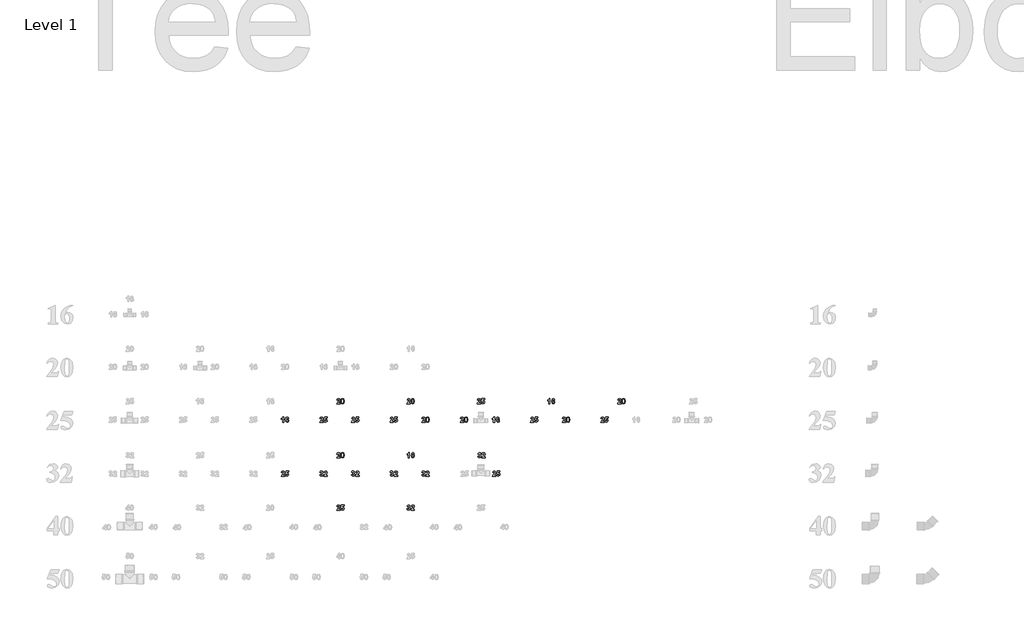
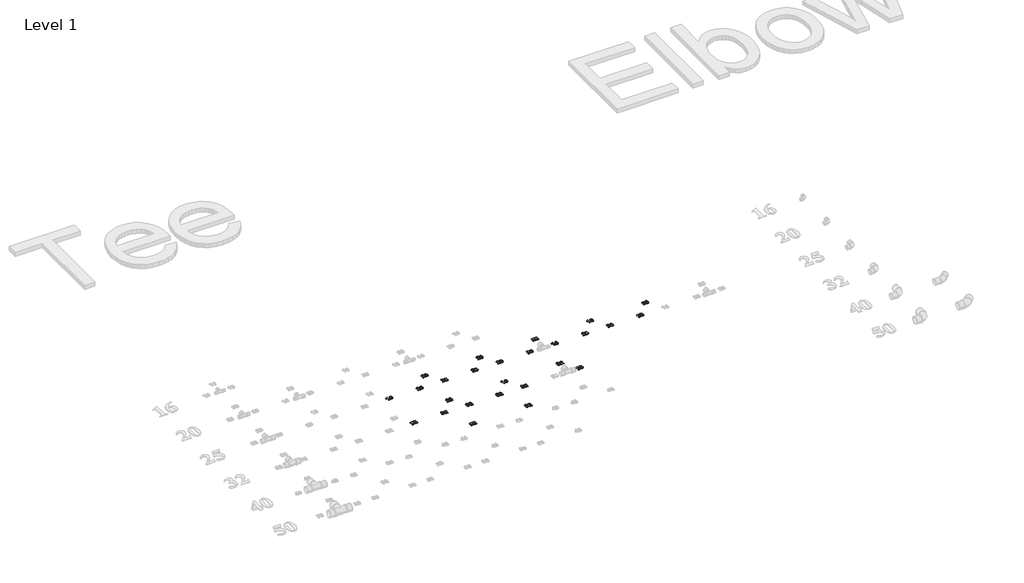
# One storey, part 29 of 57: 26 proxies.
"""IFC4 building model written with IfcOpenShell, lengths in millimetres."""

from ifc_helpers import new_model, si_unit, frame, origin, place, context, project, spatial, polyline, outline, extrude, element, save

model = new_model("IFC4")

# Units and contexts
model_context = context("Model", 3, world=origin())
ifc_project = project(units=[si_unit("LENGTHUNIT", "METRE", prefix="MILLI")], contexts=[model_context])

# Site, building, storey
site = spatial("IfcSite", under=ifc_project)
building = spatial("IfcBuilding", under=site)
storey = spatial("IfcBuildingStorey", under=building, Name="Level 1", Elevation=27.3876384)

# Proxies
placement = place(None, origin())
element("IfcBuildingElementProxy", 1, Name="30mm Arial", ObjectType="30mm Arial", at=placement, inside=storey, context=model_context, shape_type="SweptSolid", body=[
    extrude(outline(polyline([(14046.9128204, 29586.7013539), (14041.0827667, 29586.7013539), (14041.0827667, 29608.5792378), (14033.7951995, 29603.7056773), (14033.7951995, 29609.535731), (14038.6611688, 29612.3938237), (14042.2669963, 29617.3091359), (14046.9128204, 29617.3091359), (14046.9128204, 29586.7013539)])), frame((0.0, 0.0, 27.3876384), z_axis=(0.0, 0.0, 1.0), x_axis=(1.0, 0.0, 0.0)), (0.0, 0.0, 1.0), 2.0),
    extrude(outline(polyline([(14074.6055755, 29609.186535), (14068.7755218, 29608.5640553), (14067.7431165, 29611.1336819), (14065.5720287, 29611.96492), (14062.5810897, 29610.3517867), (14061.0400729, 29603.5766266), (14066.3691064, 29606.1348663), (14072.529378, 29603.4020286), (14075.0914133, 29596.3497892), (14072.4724439, 29588.9901055), (14065.7390355, 29586.2155161), (14058.4970156, 29589.79857), (14055.6579009, 29601.5421808), (14058.6222707, 29613.6122138), (14066.3235591, 29617.3091359), (14071.8271905, 29615.2291428), (14074.6055755, 29609.186535)]), holes=[polyline([(14061.4879547, 29596.4788398), (14062.7480965, 29592.8388519), (14065.6251673, 29591.559732), (14068.221363, 29592.6073198), (14069.2613596, 29596.0461405), (14068.1416553, 29599.6481724), (14065.3442923, 29600.7906504), (14062.607659, 29599.6975153), (14061.4879547, 29596.4788398)])]), frame((0.0, 0.0, 27.3876384), z_axis=(0.0, 0.0, 1.0), x_axis=(1.0, 0.0, 0.0)), (0.0, 0.0, 1.0), 2.0),
])
element("IfcBuildingElementProxy", 2, Name="30mm Arial", ObjectType="30mm Arial", at=placement, inside=storey, context=model_context, shape_type="SweptSolid", body=[
    extrude(outline(polyline([(14366.6163525, 29696.4736422), (14366.6163525, 29690.6435885), (14347.1828401, 29690.6435885), (14349.042688, 29696.3635696), (14355.1536167, 29703.5334729), (14359.6627988, 29708.4222158), (14360.7862988, 29711.9293575), (14359.8411924, 29714.8785448), (14357.2336098, 29715.9071546), (14354.6222316, 29714.8937273), (14353.4987316, 29711.5346143), (14347.6686779, 29712.0659994), (14350.7962588, 29719.1144432), (14357.3626605, 29721.2513705), (14364.1492074, 29718.8563419), (14366.6163525, 29712.9010331), (14365.9407343, 29709.0446955), (14363.8000114, 29705.2111315), (14360.1752059, 29701.3851588), (14356.8464578, 29698.0677975), (14355.7533227, 29696.4736422), (14366.6163525, 29696.4736422)])), frame((0.0, 0.0, 27.3876384), z_axis=(0.0, 0.0, 1.0), x_axis=(1.0, 0.0, 0.0)), (0.0, 0.0, 1.0), 2.0),
    extrude(outline(polyline([(14380.2198112, 29721.2513705), (14387.0139493, 29718.0934247), (14389.9365673, 29705.6969693), (14386.9987668, 29693.2701491), (14380.2198112, 29690.1577507), (14373.1789585, 29693.5737978), (14370.503055, 29705.7576991), (14373.4408555, 29718.138972), (14380.2198112, 29721.2513705)]), holes=[polyline([(14380.2198112, 29715.9071546), (14378.2764599, 29715.2656968), (14376.9555884, 29712.9617628), (14376.3331087, 29705.6969693), (14376.8872674, 29698.6788904), (14378.2878467, 29696.1358331), (14380.2198112, 29695.5019666), (14382.1631624, 29696.1434243), (14383.4840339, 29698.4473583), (14384.1065136, 29705.6969693), (14383.5523549, 29712.7112527), (14382.1517756, 29715.2656968), (14380.2198112, 29715.9071546)])]), frame((0.0, 0.0, 27.3876384), z_axis=(0.0, 0.0, 1.0), x_axis=(1.0, 0.0, 0.0)), (0.0, 0.0, 1.0), 2.0),
])
element("IfcBuildingElementProxy", 3, Name="30mm Arial", ObjectType="30mm Arial", at=placement, inside=storey, context=model_context, shape_type="SweptSolid", body=[
    extrude(outline(polyline([(14450.5211985, 29592.5314076), (14450.5211985, 29586.7013539), (14431.0876861, 29586.7013539), (14432.9475339, 29592.421335), (14439.0584626, 29599.5912383), (14443.5676448, 29604.4799813), (14444.6911448, 29607.9871229), (14443.7460384, 29610.9363103), (14441.1384558, 29611.96492), (14438.5270775, 29610.9514927), (14437.4035776, 29607.5923797), (14431.5735239, 29608.1237648), (14434.7011048, 29615.1722087), (14441.2675064, 29617.3091359), (14448.0540533, 29614.9141073), (14450.5211985, 29608.9587986), (14449.8455803, 29605.102461), (14447.7048574, 29601.268897), (14444.0800519, 29597.4429242), (14440.7513038, 29594.1255629), (14439.6581687, 29592.5314076), (14450.5211985, 29592.5314076)])), frame((0.0, 0.0, 27.3876384), z_axis=(0.0, 0.0, 1.0), x_axis=(1.0, 0.0, 0.0)), (0.0, 0.0, 1.0), 2.0),
    extrude(outline(polyline([(14454.4079009, 29595.3173838), (14459.7521168, 29595.9322723), (14461.2399951, 29592.7363705), (14464.0942923, 29591.559732), (14467.2180776, 29592.808487), (14468.4971974, 29596.5699344), (14467.3091721, 29600.0998498), (14464.2157517, 29601.2764882), (14459.9494885, 29598.8472992), (14454.8937388, 29599.5988295), (14458.2946034, 29616.8232981), (14472.8697377, 29616.8232981), (14472.8697377, 29610.9932444), (14463.0087484, 29610.9932444), (14461.83211, 29605.4288832), (14465.5897618, 29606.6207041), (14471.7841938, 29603.8612972), (14474.3272511, 29596.6989851), (14472.2093019, 29590.1477659), (14464.1853869, 29586.2155161), (14457.5013214, 29588.6826612), (14454.4079009, 29595.3173838)])), frame((0.0, 0.0, 27.3876384), z_axis=(0.0, 0.0, 1.0), x_axis=(1.0, 0.0, 0.0)), (0.0, 0.0, 1.0), 2.0),
])
element("IfcBuildingElementProxy", 4, Name="30mm Arial", ObjectType="30mm Arial", at=placement, inside=storey, context=model_context, shape_type="SweptSolid", body=[
    extrude(outline(polyline([(14270.5211985, 29592.5314076), (14270.5211985, 29586.7013539), (14251.0876861, 29586.7013539), (14252.9475339, 29592.421335), (14259.0584626, 29599.5912383), (14263.5676448, 29604.4799813), (14264.6911448, 29607.9871229), (14263.7460384, 29610.9363103), (14261.1384558, 29611.96492), (14258.5270775, 29610.9514927), (14257.4035776, 29607.5923797), (14251.5735239, 29608.1237648), (14254.7011048, 29615.1722087), (14261.2675064, 29617.3091359), (14268.0540533, 29614.9141073), (14270.5211985, 29608.9587986), (14269.8455803, 29605.102461), (14267.7048574, 29601.268897), (14264.0800519, 29597.4429242), (14260.7513038, 29594.1255629), (14259.6581687, 29592.5314076), (14270.5211985, 29592.5314076)])), frame((0.0, 0.0, 27.3876384), z_axis=(0.0, 0.0, 1.0), x_axis=(1.0, 0.0, 0.0)), (0.0, 0.0, 1.0), 2.0),
    extrude(outline(polyline([(14274.4079009, 29595.3173838), (14279.7521168, 29595.9322723), (14281.2399951, 29592.7363705), (14284.0942923, 29591.559732), (14287.2180776, 29592.808487), (14288.4971974, 29596.5699344), (14287.3091721, 29600.0998498), (14284.2157517, 29601.2764882), (14279.9494885, 29598.8472992), (14274.8937388, 29599.5988295), (14278.2946034, 29616.8232981), (14292.8697377, 29616.8232981), (14292.8697377, 29610.9932444), (14283.0087484, 29610.9932444), (14281.83211, 29605.4288832), (14285.5897618, 29606.6207041), (14291.7841938, 29603.8612972), (14294.3272511, 29596.6989851), (14292.2093019, 29590.1477659), (14284.1853869, 29586.2155161), (14277.5013214, 29588.6826612), (14274.4079009, 29595.3173838)])), frame((0.0, 0.0, 27.3876384), z_axis=(0.0, 0.0, 1.0), x_axis=(1.0, 0.0, 0.0)), (0.0, 0.0, 1.0), 2.0),
])
element("IfcBuildingElementProxy", 5, Name="30mm Arial", ObjectType="30mm Arial", at=placement, inside=storey, context=model_context, shape_type="SweptSolid", body=[
    extrude(outline(polyline([(14765.3663525, 29696.4736422), (14765.3663525, 29690.6435885), (14745.9328401, 29690.6435885), (14747.792688, 29696.3635696), (14753.9036167, 29703.5334729), (14758.4127988, 29708.4222158), (14759.5362988, 29711.9293575), (14758.5911924, 29714.8785448), (14755.9836098, 29715.9071546), (14753.3722316, 29714.8937273), (14752.2487316, 29711.5346143), (14746.4186779, 29712.0659994), (14749.5462588, 29719.1144432), (14756.1126605, 29721.2513705), (14762.8992074, 29718.8563419), (14765.3663525, 29712.9010331), (14764.6907343, 29709.0446955), (14762.5500114, 29705.2111315), (14758.9252059, 29701.3851588), (14755.5964578, 29698.0677975), (14754.5033227, 29696.4736422), (14765.3663525, 29696.4736422)])), frame((0.0, 0.0, 27.3876384), z_axis=(0.0, 0.0, 1.0), x_axis=(1.0, 0.0, 0.0)), (0.0, 0.0, 1.0), 2.0),
    extrude(outline(polyline([(14778.9698112, 29721.2513705), (14785.7639493, 29718.0934247), (14788.6865673, 29705.6969693), (14785.7487668, 29693.2701491), (14778.9698112, 29690.1577507), (14771.9289585, 29693.5737978), (14769.253055, 29705.7576991), (14772.1908555, 29718.138972), (14778.9698112, 29721.2513705)]), holes=[polyline([(14778.9698112, 29715.9071546), (14777.0264599, 29715.2656968), (14775.7055884, 29712.9617628), (14775.0831087, 29705.6969693), (14775.6372674, 29698.6788904), (14777.0378467, 29696.1358331), (14778.9698112, 29695.5019666), (14780.9131624, 29696.1434243), (14782.2340339, 29698.4473583), (14782.8565136, 29705.6969693), (14782.3023549, 29712.7112527), (14780.9017756, 29715.2656968), (14778.9698112, 29715.9071546)])]), frame((0.0, 0.0, 27.3876384), z_axis=(0.0, 0.0, 1.0), x_axis=(1.0, 0.0, 0.0)), (0.0, 0.0, 1.0), 2.0),
])
element("IfcBuildingElementProxy", 6, Name="30mm Arial", ObjectType="30mm Arial", at=placement, inside=storey, context=model_context, shape_type="SweptSolid", body=[
    extrude(outline(polyline([(14849.2711985, 29592.5314076), (14849.2711985, 29586.7013539), (14829.8376861, 29586.7013539), (14831.6975339, 29592.421335), (14837.8084626, 29599.5912383), (14842.3176448, 29604.4799813), (14843.4411448, 29607.9871229), (14842.4960384, 29610.9363103), (14839.8884558, 29611.96492), (14837.2770775, 29610.9514927), (14836.1535776, 29607.5923797), (14830.3235239, 29608.1237648), (14833.4511048, 29615.1722087), (14840.0175064, 29617.3091359), (14846.8040533, 29614.9141073), (14849.2711985, 29608.9587986), (14848.5955803, 29605.102461), (14846.4548574, 29601.268897), (14842.8300519, 29597.4429242), (14839.5013038, 29594.1255629), (14838.4081687, 29592.5314076), (14849.2711985, 29592.5314076)])), frame((0.0, 0.0, 27.3876384), z_axis=(0.0, 0.0, 1.0), x_axis=(1.0, 0.0, 0.0)), (0.0, 0.0, 1.0), 2.0),
    extrude(outline(polyline([(14862.8746571, 29617.3091359), (14869.6687952, 29614.1511902), (14872.5914133, 29601.7547348), (14869.6536128, 29589.3279146), (14862.8746571, 29586.2155161), (14855.8338045, 29589.6315632), (14853.1579009, 29601.8154645), (14856.0957014, 29614.1967375), (14862.8746571, 29617.3091359)]), holes=[polyline([(14862.8746571, 29611.96492), (14860.9313059, 29611.3234623), (14859.6104343, 29609.0195283), (14858.9879547, 29601.7547348), (14859.5421134, 29594.7366558), (14860.9426927, 29592.1935985), (14862.8746571, 29591.559732), (14864.8180084, 29592.2011897), (14866.1388799, 29594.5051237), (14866.7613596, 29601.7547348), (14866.2072009, 29608.7690182), (14864.8066215, 29611.3234623), (14862.8746571, 29611.96492)])]), frame((0.0, 0.0, 27.3876384), z_axis=(0.0, 0.0, 1.0), x_axis=(1.0, 0.0, 0.0)), (0.0, 0.0, 1.0), 2.0),
])
element("IfcBuildingElementProxy", 7, Name="30mm Arial", ObjectType="30mm Arial", at=placement, inside=storey, context=model_context, shape_type="SweptSolid", body=[
    extrude(outline(polyline([(14669.2711985, 29592.5314076), (14669.2711985, 29586.7013539), (14649.8376861, 29586.7013539), (14651.6975339, 29592.421335), (14657.8084626, 29599.5912383), (14662.3176448, 29604.4799813), (14663.4411448, 29607.9871229), (14662.4960384, 29610.9363103), (14659.8884558, 29611.96492), (14657.2770775, 29610.9514927), (14656.1535776, 29607.5923797), (14650.3235239, 29608.1237648), (14653.4511048, 29615.1722087), (14660.0175064, 29617.3091359), (14666.8040533, 29614.9141073), (14669.2711985, 29608.9587986), (14668.5955803, 29605.102461), (14666.4548574, 29601.268897), (14662.8300519, 29597.4429242), (14659.5013038, 29594.1255629), (14658.4081687, 29592.5314076), (14669.2711985, 29592.5314076)])), frame((0.0, 0.0, 27.3876384), z_axis=(0.0, 0.0, 1.0), x_axis=(1.0, 0.0, 0.0)), (0.0, 0.0, 1.0), 2.0),
    extrude(outline(polyline([(14673.1579009, 29595.3173838), (14678.5021168, 29595.9322723), (14679.9899951, 29592.7363705), (14682.8442923, 29591.559732), (14685.9680776, 29592.808487), (14687.2471974, 29596.5699344), (14686.0591721, 29600.0998498), (14682.9657517, 29601.2764882), (14678.6994885, 29598.8472992), (14673.6437388, 29599.5988295), (14677.0446034, 29616.8232981), (14691.6197377, 29616.8232981), (14691.6197377, 29610.9932444), (14681.7587484, 29610.9932444), (14680.58211, 29605.4288832), (14684.3397618, 29606.6207041), (14690.5341938, 29603.8612972), (14693.0772511, 29596.6989851), (14690.9593019, 29590.1477659), (14682.9353869, 29586.2155161), (14676.2513214, 29588.6826612), (14673.1579009, 29595.3173838)])), frame((0.0, 0.0, 27.3876384), z_axis=(0.0, 0.0, 1.0), x_axis=(1.0, 0.0, 0.0)), (0.0, 0.0, 1.0), 2.0),
])
element("IfcBuildingElementProxy", 8, Name="30mm Arial", ObjectType="30mm Arial", at=placement, inside=storey, context=model_context, shape_type="SweptSolid", body=[
    extrude(outline(polyline([(15164.1163525, 29696.4736422), (15164.1163525, 29690.6435885), (15144.6828401, 29690.6435885), (15146.542688, 29696.3635696), (15152.6536167, 29703.5334729), (15157.1627988, 29708.4222158), (15158.2862988, 29711.9293575), (15157.3411924, 29714.8785448), (15154.7336098, 29715.9071546), (15152.1222316, 29714.8937273), (15150.9987316, 29711.5346143), (15145.1686779, 29712.0659994), (15148.2962588, 29719.1144432), (15154.8626605, 29721.2513705), (15161.6492074, 29718.8563419), (15164.1163525, 29712.9010331), (15163.4407343, 29709.0446955), (15161.3000114, 29705.2111315), (15157.6752059, 29701.3851588), (15154.3464578, 29698.0677975), (15153.2533227, 29696.4736422), (15164.1163525, 29696.4736422)])), frame((0.0, 0.0, 27.3876384), z_axis=(0.0, 0.0, 1.0), x_axis=(1.0, 0.0, 0.0)), (0.0, 0.0, 1.0), 2.0),
    extrude(outline(polyline([(15168.003055, 29699.2596184), (15173.3472709, 29699.8745068), (15174.8351492, 29696.678605), (15177.6894463, 29695.5019666), (15180.8132316, 29696.7507216), (15182.0923514, 29700.512169), (15180.9043262, 29704.0420843), (15177.8109057, 29705.2187228), (15173.5446425, 29702.7895337), (15168.4888928, 29703.5410641), (15171.8897574, 29720.7655327), (15186.4648917, 29720.7655327), (15186.4648917, 29714.9354789), (15176.6039024, 29714.9354789), (15175.427264, 29709.3711178), (15179.1849158, 29710.5629387), (15185.3793479, 29707.8035317), (15187.9224052, 29700.6412196), (15185.804456, 29694.0900004), (15177.7805409, 29690.1577507), (15171.0964754, 29692.6248958), (15168.003055, 29699.2596184)])), frame((0.0, 0.0, 27.3876384), z_axis=(0.0, 0.0, 1.0), x_axis=(1.0, 0.0, 0.0)), (0.0, 0.0, 1.0), 2.0),
])
element("IfcBuildingElementProxy", 9, Name="30mm Arial", ObjectType="30mm Arial", at=placement, inside=storey, context=model_context, shape_type="SweptSolid", body=[
    extrude(outline(polyline([(15243.1628204, 29586.7013539), (15237.3327667, 29586.7013539), (15237.3327667, 29608.5792378), (15230.0451995, 29603.7056773), (15230.0451995, 29609.535731), (15234.9111688, 29612.3938237), (15238.5169963, 29617.3091359), (15243.1628204, 29617.3091359), (15243.1628204, 29586.7013539)])), frame((0.0, 0.0, 27.3876384), z_axis=(0.0, 0.0, 1.0), x_axis=(1.0, 0.0, 0.0)), (0.0, 0.0, 1.0), 2.0),
    extrude(outline(polyline([(15270.8555755, 29609.186535), (15265.0255218, 29608.5640553), (15263.9931165, 29611.1336819), (15261.8220287, 29611.96492), (15258.8310897, 29610.3517867), (15257.2900729, 29603.5766266), (15262.6191064, 29606.1348663), (15268.779378, 29603.4020286), (15271.3414133, 29596.3497892), (15268.7224439, 29588.9901055), (15261.9890355, 29586.2155161), (15254.7470156, 29589.79857), (15251.9079009, 29601.5421808), (15254.8722707, 29613.6122138), (15262.5735591, 29617.3091359), (15268.0771905, 29615.2291428), (15270.8555755, 29609.186535)]), holes=[polyline([(15257.7379547, 29596.4788398), (15258.9980965, 29592.8388519), (15261.8751673, 29591.559732), (15264.471363, 29592.6073198), (15265.5113596, 29596.0461405), (15264.3916553, 29599.6481724), (15261.5942923, 29600.7906504), (15258.857659, 29599.6975153), (15257.7379547, 29596.4788398)])]), frame((0.0, 0.0, 27.3876384), z_axis=(0.0, 0.0, 1.0), x_axis=(1.0, 0.0, 0.0)), (0.0, 0.0, 1.0), 2.0),
])
element("IfcBuildingElementProxy", 10, Name="30mm Arial", ObjectType="30mm Arial", at=placement, inside=storey, context=model_context, shape_type="SweptSolid", body=[
    extrude(outline(polyline([(15068.0211985, 29592.5314076), (15068.0211985, 29586.7013539), (15048.5876861, 29586.7013539), (15050.4475339, 29592.421335), (15056.5584626, 29599.5912383), (15061.0676448, 29604.4799813), (15062.1911448, 29607.9871229), (15061.2460384, 29610.9363103), (15058.6384558, 29611.96492), (15056.0270775, 29610.9514927), (15054.9035776, 29607.5923797), (15049.0735239, 29608.1237648), (15052.2011048, 29615.1722087), (15058.7675064, 29617.3091359), (15065.5540533, 29614.9141073), (15068.0211985, 29608.9587986), (15067.3455803, 29605.102461), (15065.2048574, 29601.268897), (15061.5800519, 29597.4429242), (15058.2513038, 29594.1255629), (15057.1581687, 29592.5314076), (15068.0211985, 29592.5314076)])), frame((0.0, 0.0, 27.3876384), z_axis=(0.0, 0.0, 1.0), x_axis=(1.0, 0.0, 0.0)), (0.0, 0.0, 1.0), 2.0),
    extrude(outline(polyline([(15081.6246571, 29617.3091359), (15088.4187952, 29614.1511902), (15091.3414133, 29601.7547348), (15088.4036128, 29589.3279146), (15081.6246571, 29586.2155161), (15074.5838045, 29589.6315632), (15071.9079009, 29601.8154645), (15074.8457014, 29614.1967375), (15081.6246571, 29617.3091359)]), holes=[polyline([(15081.6246571, 29611.96492), (15079.6813059, 29611.3234623), (15078.3604343, 29609.0195283), (15077.7379547, 29601.7547348), (15078.2921134, 29594.7366558), (15079.6926927, 29592.1935985), (15081.6246571, 29591.559732), (15083.5680084, 29592.2011897), (15084.8888799, 29594.5051237), (15085.5113596, 29601.7547348), (15084.9572009, 29608.7690182), (15083.5566215, 29611.3234623), (15081.6246571, 29611.96492)])]), frame((0.0, 0.0, 27.3876384), z_axis=(0.0, 0.0, 1.0), x_axis=(1.0, 0.0, 0.0)), (0.0, 0.0, 1.0), 2.0),
])
element("IfcBuildingElementProxy", 11, Name="30mm Arial", ObjectType="30mm Arial", at=placement, inside=storey, context=model_context, shape_type="SweptSolid", body=[
    extrude(outline(polyline([(15558.0079744, 29690.6435885), (15552.1779207, 29690.6435885), (15552.1779207, 29712.5214723), (15544.8903535, 29707.6479118), (15544.8903535, 29713.4779655), (15549.7563228, 29716.3360583), (15553.3621503, 29721.2513705), (15558.0079744, 29721.2513705), (15558.0079744, 29690.6435885)])), frame((0.0, 0.0, 27.3876384), z_axis=(0.0, 0.0, 1.0), x_axis=(1.0, 0.0, 0.0)), (0.0, 0.0, 1.0), 2.0),
    extrude(outline(polyline([(15585.7007295, 29713.1287696), (15579.8706758, 29712.5062899), (15578.8382705, 29715.0759164), (15576.6671828, 29715.9071546), (15573.6762438, 29714.2940212), (15572.1352269, 29707.5188611), (15577.4642604, 29710.0771008), (15583.624532, 29707.3442632), (15586.1865673, 29700.2920237), (15583.5675979, 29692.93234), (15576.8341895, 29690.1577507), (15569.5921697, 29693.7408045), (15566.753055, 29705.4844153), (15569.7174247, 29717.5544484), (15577.4187131, 29721.2513705), (15582.9223446, 29719.1713773), (15585.7007295, 29713.1287696)]), holes=[polyline([(15572.5831087, 29700.4210744), (15573.8432505, 29696.7810864), (15576.7203213, 29695.5019666), (15579.3165171, 29696.5495543), (15580.3565136, 29699.9883751), (15579.2368093, 29703.590407), (15576.4394463, 29704.7328849), (15573.702813, 29703.6397499), (15572.5831087, 29700.4210744)])]), frame((0.0, 0.0, 27.3876384), z_axis=(0.0, 0.0, 1.0), x_axis=(1.0, 0.0, 0.0)), (0.0, 0.0, 1.0), 2.0),
])
element("IfcBuildingElementProxy", 12, Name="30mm Arial", ObjectType="30mm Arial", at=placement, inside=storey, context=model_context, shape_type="SweptSolid", body=[
    extrude(outline(polyline([(15646.7711985, 29592.5314076), (15646.7711985, 29586.7013539), (15627.3376861, 29586.7013539), (15629.1975339, 29592.421335), (15635.3084626, 29599.5912383), (15639.8176448, 29604.4799813), (15640.9411448, 29607.9871229), (15639.9960384, 29610.9363103), (15637.3884558, 29611.96492), (15634.7770775, 29610.9514927), (15633.6535776, 29607.5923797), (15627.8235239, 29608.1237648), (15630.9511048, 29615.1722087), (15637.5175064, 29617.3091359), (15644.3040533, 29614.9141073), (15646.7711985, 29608.9587986), (15646.0955803, 29605.102461), (15643.9548574, 29601.268897), (15640.3300519, 29597.4429242), (15637.0013038, 29594.1255629), (15635.9081687, 29592.5314076), (15646.7711985, 29592.5314076)])), frame((0.0, 0.0, 27.3876384), z_axis=(0.0, 0.0, 1.0), x_axis=(1.0, 0.0, 0.0)), (0.0, 0.0, 1.0), 2.0),
    extrude(outline(polyline([(15660.3746571, 29617.3091359), (15667.1687952, 29614.1511902), (15670.0914133, 29601.7547348), (15667.1536128, 29589.3279146), (15660.3746571, 29586.2155161), (15653.3338045, 29589.6315632), (15650.6579009, 29601.8154645), (15653.5957014, 29614.1967375), (15660.3746571, 29617.3091359)]), holes=[polyline([(15660.3746571, 29611.96492), (15658.4313059, 29611.3234623), (15657.1104343, 29609.0195283), (15656.4879547, 29601.7547348), (15657.0421134, 29594.7366558), (15658.4426927, 29592.1935985), (15660.3746571, 29591.559732), (15662.3180084, 29592.2011897), (15663.6388799, 29594.5051237), (15664.2613596, 29601.7547348), (15663.7072009, 29608.7690182), (15662.3066215, 29611.3234623), (15660.3746571, 29611.96492)])]), frame((0.0, 0.0, 27.3876384), z_axis=(0.0, 0.0, 1.0), x_axis=(1.0, 0.0, 0.0)), (0.0, 0.0, 1.0), 2.0),
])
element("IfcBuildingElementProxy", 13, Name="30mm Arial", ObjectType="30mm Arial", at=placement, inside=storey, context=model_context, shape_type="SweptSolid", body=[
    extrude(outline(polyline([(15466.7711985, 29592.5314076), (15466.7711985, 29586.7013539), (15447.3376861, 29586.7013539), (15449.1975339, 29592.421335), (15455.3084626, 29599.5912383), (15459.8176448, 29604.4799813), (15460.9411448, 29607.9871229), (15459.9960384, 29610.9363103), (15457.3884558, 29611.96492), (15454.7770775, 29610.9514927), (15453.6535776, 29607.5923797), (15447.8235239, 29608.1237648), (15450.9511048, 29615.1722087), (15457.5175064, 29617.3091359), (15464.3040533, 29614.9141073), (15466.7711985, 29608.9587986), (15466.0955803, 29605.102461), (15463.9548574, 29601.268897), (15460.3300519, 29597.4429242), (15457.0013038, 29594.1255629), (15455.9081687, 29592.5314076), (15466.7711985, 29592.5314076)])), frame((0.0, 0.0, 27.3876384), z_axis=(0.0, 0.0, 1.0), x_axis=(1.0, 0.0, 0.0)), (0.0, 0.0, 1.0), 2.0),
    extrude(outline(polyline([(15470.6579009, 29595.3173838), (15476.0021168, 29595.9322723), (15477.4899951, 29592.7363705), (15480.3442923, 29591.559732), (15483.4680776, 29592.808487), (15484.7471974, 29596.5699344), (15483.5591721, 29600.0998498), (15480.4657517, 29601.2764882), (15476.1994885, 29598.8472992), (15471.1437388, 29599.5988295), (15474.5446034, 29616.8232981), (15489.1197377, 29616.8232981), (15489.1197377, 29610.9932444), (15479.2587484, 29610.9932444), (15478.08211, 29605.4288832), (15481.8397618, 29606.6207041), (15488.0341938, 29603.8612972), (15490.5772511, 29596.6989851), (15488.4593019, 29590.1477659), (15480.4353869, 29586.2155161), (15473.7513214, 29588.6826612), (15470.6579009, 29595.3173838)])), frame((0.0, 0.0, 27.3876384), z_axis=(0.0, 0.0, 1.0), x_axis=(1.0, 0.0, 0.0)), (0.0, 0.0, 1.0), 2.0),
])
element("IfcBuildingElementProxy", 14, Name="30mm Arial", ObjectType="30mm Arial", at=placement, inside=storey, context=model_context, shape_type="SweptSolid", body=[
    extrude(outline(polyline([(15961.6163525, 29696.4736422), (15961.6163525, 29690.6435885), (15942.1828401, 29690.6435885), (15944.042688, 29696.3635696), (15950.1536167, 29703.5334729), (15954.6627988, 29708.4222158), (15955.7862988, 29711.9293575), (15954.8411924, 29714.8785448), (15952.2336098, 29715.9071546), (15949.6222316, 29714.8937273), (15948.4987316, 29711.5346143), (15942.6686779, 29712.0659994), (15945.7962588, 29719.1144432), (15952.3626605, 29721.2513705), (15959.1492074, 29718.8563419), (15961.6163525, 29712.9010331), (15960.9407343, 29709.0446955), (15958.8000114, 29705.2111315), (15955.1752059, 29701.3851588), (15951.8464578, 29698.0677975), (15950.7533227, 29696.4736422), (15961.6163525, 29696.4736422)])), frame((0.0, 0.0, 27.3876384), z_axis=(0.0, 0.0, 1.0), x_axis=(1.0, 0.0, 0.0)), (0.0, 0.0, 1.0), 2.0),
    extrude(outline(polyline([(15975.2198112, 29721.2513705), (15982.0139493, 29718.0934247), (15984.9365673, 29705.6969693), (15981.9987668, 29693.2701491), (15975.2198112, 29690.1577507), (15968.1789585, 29693.5737978), (15965.503055, 29705.7576991), (15968.4408555, 29718.138972), (15975.2198112, 29721.2513705)]), holes=[polyline([(15975.2198112, 29715.9071546), (15973.2764599, 29715.2656968), (15971.9555884, 29712.9617628), (15971.3331087, 29705.6969693), (15971.8872674, 29698.6788904), (15973.2878467, 29696.1358331), (15975.2198112, 29695.5019666), (15977.1631624, 29696.1434243), (15978.4840339, 29698.4473583), (15979.1065136, 29705.6969693), (15978.5523549, 29712.7112527), (15977.1517756, 29715.2656968), (15975.2198112, 29715.9071546)])]), frame((0.0, 0.0, 27.3876384), z_axis=(0.0, 0.0, 1.0), x_axis=(1.0, 0.0, 0.0)), (0.0, 0.0, 1.0), 2.0),
])
element("IfcBuildingElementProxy", 15, Name="30mm Arial", ObjectType="30mm Arial", at=placement, inside=storey, context=model_context, shape_type="SweptSolid", body=[
    extrude(outline(polyline([(15865.5211985, 29592.5314076), (15865.5211985, 29586.7013539), (15846.0876861, 29586.7013539), (15847.9475339, 29592.421335), (15854.0584626, 29599.5912383), (15858.5676448, 29604.4799813), (15859.6911448, 29607.9871229), (15858.7460384, 29610.9363103), (15856.1384558, 29611.96492), (15853.5270775, 29610.9514927), (15852.4035776, 29607.5923797), (15846.5735239, 29608.1237648), (15849.7011048, 29615.1722087), (15856.2675064, 29617.3091359), (15863.0540533, 29614.9141073), (15865.5211985, 29608.9587986), (15864.8455803, 29605.102461), (15862.7048574, 29601.268897), (15859.0800519, 29597.4429242), (15855.7513038, 29594.1255629), (15854.6581687, 29592.5314076), (15865.5211985, 29592.5314076)])), frame((0.0, 0.0, 27.3876384), z_axis=(0.0, 0.0, 1.0), x_axis=(1.0, 0.0, 0.0)), (0.0, 0.0, 1.0), 2.0),
    extrude(outline(polyline([(15869.4079009, 29595.3173838), (15874.7521168, 29595.9322723), (15876.2399951, 29592.7363705), (15879.0942923, 29591.559732), (15882.2180776, 29592.808487), (15883.4971974, 29596.5699344), (15882.3091721, 29600.0998498), (15879.2157517, 29601.2764882), (15874.9494885, 29598.8472992), (15869.8937388, 29599.5988295), (15873.2946034, 29616.8232981), (15887.8697377, 29616.8232981), (15887.8697377, 29610.9932444), (15878.0087484, 29610.9932444), (15876.83211, 29605.4288832), (15880.5897618, 29606.6207041), (15886.7841938, 29603.8612972), (15889.3272511, 29596.6989851), (15887.2093019, 29590.1477659), (15879.1853869, 29586.2155161), (15872.5013214, 29588.6826612), (15869.4079009, 29595.3173838)])), frame((0.0, 0.0, 27.3876384), z_axis=(0.0, 0.0, 1.0), x_axis=(1.0, 0.0, 0.0)), (0.0, 0.0, 1.0), 2.0),
])
element("IfcBuildingElementProxy", 16, Name="30mm Arial", ObjectType="30mm Arial", at=placement, inside=storey, context=model_context, shape_type="SweptSolid", body=[
    extrude(outline(polyline([(14051.7711985, 29285.5388791), (14051.7711985, 29279.7088254), (14032.3376861, 29279.7088254), (14034.1975339, 29285.4288065), (14040.3084626, 29292.5987098), (14044.8176448, 29297.4874528), (14045.9411448, 29300.9945944), (14044.9960384, 29303.9437818), (14042.3884558, 29304.9723915), (14039.7770775, 29303.9589642), (14038.6535776, 29300.5998512), (14032.8235239, 29301.1312363), (14035.9511048, 29308.1796802), (14042.5175064, 29310.3166074), (14049.3040533, 29307.9215788), (14051.7711985, 29301.9662701), (14051.0955803, 29298.1099324), (14048.9548574, 29294.2763685), (14045.3300519, 29290.4503957), (14042.0013038, 29287.1330344), (14040.9081687, 29285.5388791), (14051.7711985, 29285.5388791)])), frame((0.0, 0.0, 27.3876384), z_axis=(0.0, 0.0, 1.0), x_axis=(1.0, 0.0, 0.0)), (0.0, 0.0, 1.0), 2.0),
    extrude(outline(polyline([(14055.6579009, 29288.3248553), (14061.0021168, 29288.9397438), (14062.4899951, 29285.743842), (14065.3442923, 29284.5672035), (14068.4680776, 29285.8159585), (14069.7471974, 29289.5774059), (14068.5591721, 29293.1073213), (14065.4657517, 29294.2839597), (14061.1994885, 29291.8547707), (14056.1437388, 29292.606301), (14059.5446034, 29309.8307696), (14074.1197377, 29309.8307696), (14074.1197377, 29304.0007159), (14064.2587484, 29304.0007159), (14063.08211, 29298.4363547), (14066.8397618, 29299.6281756), (14073.0341938, 29296.8687687), (14075.5772511, 29289.7064566), (14073.4593019, 29283.1552374), (14065.4353869, 29279.2229876), (14058.7513214, 29281.6901327), (14055.6579009, 29288.3248553)])), frame((0.0, 0.0, 27.3876384), z_axis=(0.0, 0.0, 1.0), x_axis=(1.0, 0.0, 0.0)), (0.0, 0.0, 1.0), 2.0),
])
element("IfcBuildingElementProxy", 17, Name="30mm Arial", ObjectType="30mm Arial", at=placement, inside=storey, context=model_context, shape_type="SweptSolid", body=[
    extrude(outline(polyline([(14366.6163525, 29389.4811137), (14366.6163525, 29383.65106), (14347.1828401, 29383.65106), (14349.042688, 29389.371041), (14355.1536167, 29396.5409443), (14359.6627988, 29401.4296873), (14360.7862988, 29404.936829), (14359.8411924, 29407.8860163), (14357.2336098, 29408.9146261), (14354.6222316, 29407.9011987), (14353.4987316, 29404.5420858), (14347.6686779, 29405.0734709), (14350.7962588, 29412.1219147), (14357.3626605, 29414.258842), (14364.1492074, 29411.8638134), (14366.6163525, 29405.9085046), (14365.9407343, 29402.052167), (14363.8000114, 29398.218603), (14360.1752059, 29394.3926303), (14356.8464578, 29391.075269), (14355.7533227, 29389.4811137), (14366.6163525, 29389.4811137)])), frame((0.0, 0.0, 27.3876384), z_axis=(0.0, 0.0, 1.0), x_axis=(1.0, 0.0, 0.0)), (0.0, 0.0, 1.0), 2.0),
    extrude(outline(polyline([(14380.2198112, 29414.258842), (14387.0139493, 29411.1008962), (14389.9365673, 29398.7044408), (14386.9987668, 29386.2776206), (14380.2198112, 29383.1652222), (14373.1789585, 29386.5812692), (14370.503055, 29398.7651706), (14373.4408555, 29411.1464435), (14380.2198112, 29414.258842)]), holes=[polyline([(14380.2198112, 29408.9146261), (14378.2764599, 29408.2731683), (14376.9555884, 29405.9692343), (14376.3331087, 29398.7044408), (14376.8872674, 29391.6863619), (14378.2878467, 29389.1433046), (14380.2198112, 29388.5094381), (14382.1631624, 29389.1508958), (14383.4840339, 29391.4548298), (14384.1065136, 29398.7044408), (14383.5523549, 29405.7187242), (14382.1517756, 29408.2731683), (14380.2198112, 29408.9146261)])]), frame((0.0, 0.0, 27.3876384), z_axis=(0.0, 0.0, 1.0), x_axis=(1.0, 0.0, 0.0)), (0.0, 0.0, 1.0), 2.0),
])
element("IfcBuildingElementProxy", 18, Name="30mm Arial", ObjectType="30mm Arial", at=placement, inside=storey, context=model_context, shape_type="SweptSolid", body=[
    extrude(outline(polyline([(14431.0876861, 29288.2641256), (14436.9177398, 29288.9397438), (14438.2310201, 29285.6907034), (14440.8196247, 29284.5672035), (14443.575236, 29285.8539146), (14444.6911448, 29289.3193046), (14443.6701262, 29292.5911186), (14441.1764118, 29293.7981219), (14438.861091, 29293.3654226), (14439.3697025, 29298.1706622), (14442.2429777, 29299.1271554), (14443.2336313, 29301.8296282), (14442.4934878, 29304.1183797), (14440.5235673, 29304.9723915), (14438.4473698, 29303.9817378), (14437.4035776, 29301.085689), (14431.5735239, 29301.9586788), (14433.179066, 29306.5931161), (14436.1775963, 29309.3221581), (14440.4856112, 29310.3166074), (14447.0292392, 29307.5609961), (14449.063685, 29302.4596991), (14444.698736, 29296.0299393), (14448.9346344, 29293.5286337), (14450.5211985, 29288.8334668), (14447.708653, 29282.035533), (14440.7057565, 29279.2229876), (14434.1203768, 29281.7242932), (14431.0876861, 29288.2641256)])), frame((0.0, 0.0, 27.3876384), z_axis=(0.0, 0.0, 1.0), x_axis=(1.0, 0.0, 0.0)), (0.0, 0.0, 1.0), 2.0),
    extrude(outline(polyline([(14473.8414133, 29285.5388791), (14473.8414133, 29279.7088254), (14454.4079009, 29279.7088254), (14456.2677488, 29285.4288065), (14462.3786775, 29292.5987098), (14466.8878597, 29297.4874528), (14468.0113596, 29300.9945944), (14467.0662532, 29303.9437818), (14464.4586706, 29304.9723915), (14461.8472924, 29303.9589642), (14460.7237925, 29300.5998512), (14454.8937388, 29301.1312363), (14458.0213196, 29308.1796802), (14464.5877213, 29310.3166074), (14471.3742682, 29307.9215788), (14473.8414133, 29301.9662701), (14473.1657951, 29298.1099324), (14471.0250723, 29294.2763685), (14467.4002667, 29290.4503957), (14464.0715186, 29287.1330344), (14462.9783835, 29285.5388791), (14473.8414133, 29285.5388791)])), frame((0.0, 0.0, 27.3876384), z_axis=(0.0, 0.0, 1.0), x_axis=(1.0, 0.0, 0.0)), (0.0, 0.0, 1.0), 2.0),
])
element("IfcBuildingElementProxy", 19, Name="30mm Arial", ObjectType="30mm Arial", at=placement, inside=storey, context=model_context, shape_type="SweptSolid", body=[
    extrude(outline(polyline([(14251.0876861, 29288.2641256), (14256.9177398, 29288.9397438), (14258.2310201, 29285.6907034), (14260.8196247, 29284.5672035), (14263.575236, 29285.8539146), (14264.6911448, 29289.3193046), (14263.6701262, 29292.5911186), (14261.1764118, 29293.7981219), (14258.861091, 29293.3654226), (14259.3697025, 29298.1706622), (14262.2429777, 29299.1271554), (14263.2336313, 29301.8296282), (14262.4934878, 29304.1183797), (14260.5235673, 29304.9723915), (14258.4473698, 29303.9817378), (14257.4035776, 29301.085689), (14251.5735239, 29301.9586788), (14253.179066, 29306.5931161), (14256.1775963, 29309.3221581), (14260.4856112, 29310.3166074), (14267.0292392, 29307.5609961), (14269.063685, 29302.4596991), (14264.698736, 29296.0299393), (14268.9346344, 29293.5286337), (14270.5211985, 29288.8334668), (14267.708653, 29282.035533), (14260.7057565, 29279.2229876), (14254.1203768, 29281.7242932), (14251.0876861, 29288.2641256)])), frame((0.0, 0.0, 27.3876384), z_axis=(0.0, 0.0, 1.0), x_axis=(1.0, 0.0, 0.0)), (0.0, 0.0, 1.0), 2.0),
    extrude(outline(polyline([(14293.8414133, 29285.5388791), (14293.8414133, 29279.7088254), (14274.4079009, 29279.7088254), (14276.2677488, 29285.4288065), (14282.3786775, 29292.5987098), (14286.8878597, 29297.4874528), (14288.0113596, 29300.9945944), (14287.0662532, 29303.9437818), (14284.4586706, 29304.9723915), (14281.8472924, 29303.9589642), (14280.7237925, 29300.5998512), (14274.8937388, 29301.1312363), (14278.0213196, 29308.1796802), (14284.5877213, 29310.3166074), (14291.3742682, 29307.9215788), (14293.8414133, 29301.9662701), (14293.1657951, 29298.1099324), (14291.0250723, 29294.2763685), (14287.4002667, 29290.4503957), (14284.0715186, 29287.1330344), (14282.9783835, 29285.5388791), (14293.8414133, 29285.5388791)])), frame((0.0, 0.0, 27.3876384), z_axis=(0.0, 0.0, 1.0), x_axis=(1.0, 0.0, 0.0)), (0.0, 0.0, 1.0), 2.0),
])
element("IfcBuildingElementProxy", 20, Name="30mm Arial", ObjectType="30mm Arial", at=placement, inside=storey, context=model_context, shape_type="SweptSolid", body=[
    extrude(outline(polyline([(14760.5079744, 29383.65106), (14754.6779207, 29383.65106), (14754.6779207, 29405.5289438), (14747.3903535, 29400.6553833), (14747.3903535, 29406.485437), (14752.2563228, 29409.3435297), (14755.8621503, 29414.258842), (14760.5079744, 29414.258842), (14760.5079744, 29383.65106)])), frame((0.0, 0.0, 27.3876384), z_axis=(0.0, 0.0, 1.0), x_axis=(1.0, 0.0, 0.0)), (0.0, 0.0, 1.0), 2.0),
    extrude(outline(polyline([(14788.2007295, 29406.1362411), (14782.3706758, 29405.5137614), (14781.3382705, 29408.0833879), (14779.1671828, 29408.9146261), (14776.1762438, 29407.3014927), (14774.6352269, 29400.5263326), (14779.9642604, 29403.0845723), (14786.124532, 29400.3517347), (14788.6865673, 29393.2994952), (14786.0675979, 29385.9398115), (14779.3341895, 29383.1652222), (14772.0921697, 29386.748276), (14769.253055, 29398.4918868), (14772.2174247, 29410.5619199), (14779.9187131, 29414.258842), (14785.4223446, 29412.1788488), (14788.2007295, 29406.1362411)]), holes=[polyline([(14775.0831087, 29393.4285459), (14776.3432505, 29389.7885579), (14779.2203213, 29388.5094381), (14781.8165171, 29389.5570258), (14782.8565136, 29392.9958466), (14781.7368093, 29396.5978785), (14778.9394463, 29397.7403564), (14776.202813, 29396.6472214), (14775.0831087, 29393.4285459)])]), frame((0.0, 0.0, 27.3876384), z_axis=(0.0, 0.0, 1.0), x_axis=(1.0, 0.0, 0.0)), (0.0, 0.0, 1.0), 2.0),
])
element("IfcBuildingElementProxy", 21, Name="30mm Arial", ObjectType="30mm Arial", at=placement, inside=storey, context=model_context, shape_type="SweptSolid", body=[
    extrude(outline(polyline([(14829.8376861, 29288.2641256), (14835.6677398, 29288.9397438), (14836.9810201, 29285.6907034), (14839.5696247, 29284.5672035), (14842.325236, 29285.8539146), (14843.4411448, 29289.3193046), (14842.4201262, 29292.5911186), (14839.9264118, 29293.7981219), (14837.611091, 29293.3654226), (14838.1197025, 29298.1706622), (14840.9929777, 29299.1271554), (14841.9836313, 29301.8296282), (14841.2434878, 29304.1183797), (14839.2735673, 29304.9723915), (14837.1973698, 29303.9817378), (14836.1535776, 29301.085689), (14830.3235239, 29301.9586788), (14831.929066, 29306.5931161), (14834.9275963, 29309.3221581), (14839.2356112, 29310.3166074), (14845.7792392, 29307.5609961), (14847.813685, 29302.4596991), (14843.448736, 29296.0299393), (14847.6846344, 29293.5286337), (14849.2711985, 29288.8334668), (14846.458653, 29282.035533), (14839.4557565, 29279.2229876), (14832.8703768, 29281.7242932), (14829.8376861, 29288.2641256)])), frame((0.0, 0.0, 27.3876384), z_axis=(0.0, 0.0, 1.0), x_axis=(1.0, 0.0, 0.0)), (0.0, 0.0, 1.0), 2.0),
    extrude(outline(polyline([(14872.5914133, 29285.5388791), (14872.5914133, 29279.7088254), (14853.1579009, 29279.7088254), (14855.0177488, 29285.4288065), (14861.1286775, 29292.5987098), (14865.6378597, 29297.4874528), (14866.7613596, 29300.9945944), (14865.8162532, 29303.9437818), (14863.2086706, 29304.9723915), (14860.5972924, 29303.9589642), (14859.4737925, 29300.5998512), (14853.6437388, 29301.1312363), (14856.7713196, 29308.1796802), (14863.3377213, 29310.3166074), (14870.1242682, 29307.9215788), (14872.5914133, 29301.9662701), (14871.9157951, 29298.1099324), (14869.7750723, 29294.2763685), (14866.1502667, 29290.4503957), (14862.8215186, 29287.1330344), (14861.7283835, 29285.5388791), (14872.5914133, 29285.5388791)])), frame((0.0, 0.0, 27.3876384), z_axis=(0.0, 0.0, 1.0), x_axis=(1.0, 0.0, 0.0)), (0.0, 0.0, 1.0), 2.0),
])
element("IfcBuildingElementProxy", 22, Name="30mm Arial", ObjectType="30mm Arial", at=placement, inside=storey, context=model_context, shape_type="SweptSolid", body=[
    extrude(outline(polyline([(14649.8376861, 29288.2641256), (14655.6677398, 29288.9397438), (14656.9810201, 29285.6907034), (14659.5696247, 29284.5672035), (14662.325236, 29285.8539146), (14663.4411448, 29289.3193046), (14662.4201262, 29292.5911186), (14659.9264118, 29293.7981219), (14657.611091, 29293.3654226), (14658.1197025, 29298.1706622), (14660.9929777, 29299.1271554), (14661.9836313, 29301.8296282), (14661.2434878, 29304.1183797), (14659.2735673, 29304.9723915), (14657.1973698, 29303.9817378), (14656.1535776, 29301.085689), (14650.3235239, 29301.9586788), (14651.929066, 29306.5931161), (14654.9275963, 29309.3221581), (14659.2356112, 29310.3166074), (14665.7792392, 29307.5609961), (14667.813685, 29302.4596991), (14663.448736, 29296.0299393), (14667.6846344, 29293.5286337), (14669.2711985, 29288.8334668), (14666.458653, 29282.035533), (14659.4557565, 29279.2229876), (14652.8703768, 29281.7242932), (14649.8376861, 29288.2641256)])), frame((0.0, 0.0, 27.3876384), z_axis=(0.0, 0.0, 1.0), x_axis=(1.0, 0.0, 0.0)), (0.0, 0.0, 1.0), 2.0),
    extrude(outline(polyline([(14692.5914133, 29285.5388791), (14692.5914133, 29279.7088254), (14673.1579009, 29279.7088254), (14675.0177488, 29285.4288065), (14681.1286775, 29292.5987098), (14685.6378597, 29297.4874528), (14686.7613596, 29300.9945944), (14685.8162532, 29303.9437818), (14683.2086706, 29304.9723915), (14680.5972924, 29303.9589642), (14679.4737925, 29300.5998512), (14673.6437388, 29301.1312363), (14676.7713196, 29308.1796802), (14683.3377213, 29310.3166074), (14690.1242682, 29307.9215788), (14692.5914133, 29301.9662701), (14691.9157951, 29298.1099324), (14689.7750723, 29294.2763685), (14686.1502667, 29290.4503957), (14682.8215186, 29287.1330344), (14681.7283835, 29285.5388791), (14692.5914133, 29285.5388791)])), frame((0.0, 0.0, 27.3876384), z_axis=(0.0, 0.0, 1.0), x_axis=(1.0, 0.0, 0.0)), (0.0, 0.0, 1.0), 2.0),
])
element("IfcBuildingElementProxy", 23, Name="30mm Arial", ObjectType="30mm Arial", at=placement, inside=storey, context=model_context, shape_type="SweptSolid", body=[
    extrude(outline(polyline([(15147.7348238, 29392.2063601), (15153.5648775, 29392.8819783), (15154.8781578, 29389.632938), (15157.4667624, 29388.5094381), (15160.2223737, 29389.7961491), (15161.3382825, 29393.2615391), (15160.3172639, 29396.5333531), (15157.8235496, 29397.7403564), (15155.5082287, 29397.3076571), (15156.0168402, 29402.1128967), (15158.8901154, 29403.0693899), (15159.880769, 29405.7718627), (15159.1406255, 29408.0606143), (15157.170705, 29408.9146261), (15155.0945075, 29407.9239724), (15154.0507153, 29405.0279236), (15148.2206616, 29405.9009134), (15149.8262037, 29410.5353506), (15152.824734, 29413.2643927), (15157.1327489, 29414.258842), (15163.6763769, 29411.5032306), (15165.7108227, 29406.4019336), (15161.3458737, 29399.9721739), (15165.5817721, 29397.4708683), (15167.1683362, 29392.7757013), (15164.3557907, 29385.9777676), (15157.3528942, 29383.1652222), (15150.7675145, 29385.6665277), (15147.7348238, 29392.2063601)])), frame((0.0, 0.0, 27.3876384), z_axis=(0.0, 0.0, 1.0), x_axis=(1.0, 0.0, 0.0)), (0.0, 0.0, 1.0), 2.0),
    extrude(outline(polyline([(15190.488551, 29389.4811137), (15190.488551, 29383.65106), (15171.0550386, 29383.65106), (15172.9148865, 29389.371041), (15179.0258152, 29396.5409443), (15183.5349974, 29401.4296873), (15184.6584973, 29404.936829), (15183.7133909, 29407.8860163), (15181.1058083, 29408.9146261), (15178.4944301, 29407.9011987), (15177.3709302, 29404.5420858), (15171.5408765, 29405.0734709), (15174.6684574, 29412.1219147), (15181.234859, 29414.258842), (15188.0214059, 29411.8638134), (15190.488551, 29405.9085046), (15189.8129328, 29402.052167), (15187.67221, 29398.218603), (15184.0474044, 29394.3926303), (15180.7186563, 29391.075269), (15179.6255213, 29389.4811137), (15190.488551, 29389.4811137)])), frame((0.0, 0.0, 27.3876384), z_axis=(0.0, 0.0, 1.0), x_axis=(1.0, 0.0, 0.0)), (0.0, 0.0, 1.0), 2.0),
])
element("IfcBuildingElementProxy", 24, Name="30mm Arial", ObjectType="30mm Arial", at=placement, inside=storey, context=model_context, shape_type="SweptSolid", body=[
    extrude(outline(polyline([(15251.0731821, 29285.5388791), (15251.0731821, 29279.7088254), (15231.6396698, 29279.7088254), (15233.4995176, 29285.4288065), (15239.6104463, 29292.5987098), (15244.1196285, 29297.4874528), (15245.2431284, 29300.9945944), (15244.2980221, 29303.9437818), (15241.6904394, 29304.9723915), (15239.0790612, 29303.9589642), (15237.9555613, 29300.5998512), (15232.1255076, 29301.1312363), (15235.2530885, 29308.1796802), (15241.8194901, 29310.3166074), (15248.606037, 29307.9215788), (15251.0731821, 29301.9662701), (15250.3975639, 29298.1099324), (15248.2568411, 29294.2763685), (15244.6320356, 29290.4503957), (15241.3032874, 29287.1330344), (15240.2101524, 29285.5388791), (15251.0731821, 29285.5388791)])), frame((0.0, 0.0, 27.3876384), z_axis=(0.0, 0.0, 1.0), x_axis=(1.0, 0.0, 0.0)), (0.0, 0.0, 1.0), 2.0),
    extrude(outline(polyline([(15254.9598846, 29288.3248553), (15260.3041005, 29288.9397438), (15261.7919788, 29285.743842), (15264.6462759, 29284.5672035), (15267.7700612, 29285.8159585), (15269.0491811, 29289.5774059), (15267.8611558, 29293.1073213), (15264.7677354, 29294.2839597), (15260.5014721, 29291.8547707), (15255.4457224, 29292.606301), (15258.8465871, 29309.8307696), (15273.4217214, 29309.8307696), (15273.4217214, 29304.0007159), (15263.5607321, 29304.0007159), (15262.3840936, 29298.4363547), (15266.1417455, 29299.6281756), (15272.3361775, 29296.8687687), (15274.8792348, 29289.7064566), (15272.7612856, 29283.1552374), (15264.7373705, 29279.2229876), (15258.053305, 29281.6901327), (15254.9598846, 29288.3248553)])), frame((0.0, 0.0, 27.3876384), z_axis=(0.0, 0.0, 1.0), x_axis=(1.0, 0.0, 0.0)), (0.0, 0.0, 1.0), 2.0),
])
element("IfcBuildingElementProxy", 25, Name="30mm Arial", ObjectType="30mm Arial", at=placement, inside=storey, context=model_context, shape_type="SweptSolid", body=[
    extrude(outline(polyline([(14366.6163525, 29091.7485852), (14366.6163525, 29085.9185315), (14347.1828401, 29085.9185315), (14349.042688, 29091.6385125), (14355.1536167, 29098.8084158), (14359.6627988, 29103.6971588), (14360.7862988, 29107.2043005), (14359.8411924, 29110.1534878), (14357.2336098, 29111.1820975), (14354.6222316, 29110.1686702), (14353.4987316, 29106.8095573), (14347.6686779, 29107.3409424), (14350.7962588, 29114.3893862), (14357.3626605, 29116.5263135), (14364.1492074, 29114.1312849), (14366.6163525, 29108.1759761), (14365.9407343, 29104.3196385), (14363.8000114, 29100.4860745), (14360.1752059, 29096.6601018), (14356.8464578, 29093.3427405), (14355.7533227, 29091.7485852), (14366.6163525, 29091.7485852)])), frame((0.0, 0.0, 27.3876384), z_axis=(0.0, 0.0, 1.0), x_axis=(1.0, 0.0, 0.0)), (0.0, 0.0, 1.0), 2.0),
    extrude(outline(polyline([(14370.503055, 29094.5345614), (14375.8472709, 29095.1494498), (14377.3351492, 29091.953548), (14380.1894463, 29090.7769095), (14383.3132316, 29092.0256645), (14384.5923514, 29095.787112), (14383.4043262, 29099.3170273), (14380.3109057, 29100.4936657), (14376.0446425, 29098.0644767), (14370.9888928, 29098.8160071), (14374.3897574, 29116.0404756), (14388.9648917, 29116.0404756), (14388.9648917, 29110.2104219), (14379.1039024, 29110.2104219), (14377.927264, 29104.6460608), (14381.6849158, 29105.8378816), (14387.8793479, 29103.0784747), (14390.4224052, 29095.9161626), (14388.304456, 29089.3649434), (14380.2805409, 29085.4326936), (14373.5964754, 29087.8998388), (14370.503055, 29094.5345614)])), frame((0.0, 0.0, 27.3876384), z_axis=(0.0, 0.0, 1.0), x_axis=(1.0, 0.0, 0.0)), (0.0, 0.0, 1.0), 2.0),
])
element("IfcBuildingElementProxy", 26, Name="30mm Arial", ObjectType="30mm Arial", at=placement, inside=storey, context=model_context, shape_type="SweptSolid", body=[
    extrude(outline(polyline([(14745.9328401, 29094.4738316), (14751.7628938, 29095.1494498), (14753.0761742, 29091.9004095), (14755.6647787, 29090.7769095), (14758.4203901, 29092.0636206), (14759.5362988, 29095.5290106), (14758.5152803, 29098.8008246), (14756.0215659, 29100.0078279), (14753.7062451, 29099.5751286), (14754.2148565, 29104.3803682), (14757.0881317, 29105.3368614), (14758.0787853, 29108.0393342), (14757.3386418, 29110.3280858), (14755.3687213, 29111.1820975), (14753.2925238, 29110.1914439), (14752.2487316, 29107.2953951), (14746.4186779, 29108.1683849), (14748.0242201, 29112.8028221), (14751.0227503, 29115.5318642), (14755.3307652, 29116.5263135), (14761.8743932, 29113.7707021), (14763.9088391, 29108.6694051), (14759.54389, 29102.2396454), (14763.7797884, 29099.7383398), (14765.3663525, 29095.0431728), (14762.553807, 29088.2452391), (14755.5509105, 29085.4326936), (14748.9655308, 29087.9339992), (14745.9328401, 29094.4738316)])), frame((0.0, 0.0, 27.3876384), z_axis=(0.0, 0.0, 1.0), x_axis=(1.0, 0.0, 0.0)), (0.0, 0.0, 1.0), 2.0),
    extrude(outline(polyline([(14788.6865673, 29091.7485852), (14788.6865673, 29085.9185315), (14769.253055, 29085.9185315), (14771.1129028, 29091.6385125), (14777.2238315, 29098.8084158), (14781.7330137, 29103.6971588), (14782.8565136, 29107.2043005), (14781.9114073, 29110.1534878), (14779.3038246, 29111.1820975), (14776.6924464, 29110.1686702), (14775.5689465, 29106.8095573), (14769.7388928, 29107.3409424), (14772.8664737, 29114.3893862), (14779.4328753, 29116.5263135), (14786.2194222, 29114.1312849), (14788.6865673, 29108.1759761), (14788.0109491, 29104.3196385), (14785.8702263, 29100.4860745), (14782.2454208, 29096.6601018), (14778.9166726, 29093.3427405), (14777.8235376, 29091.7485852), (14788.6865673, 29091.7485852)])), frame((0.0, 0.0, 27.3876384), z_axis=(0.0, 0.0, 1.0), x_axis=(1.0, 0.0, 0.0)), (0.0, 0.0, 1.0), 2.0),
])

save(model, "model.ifc")
